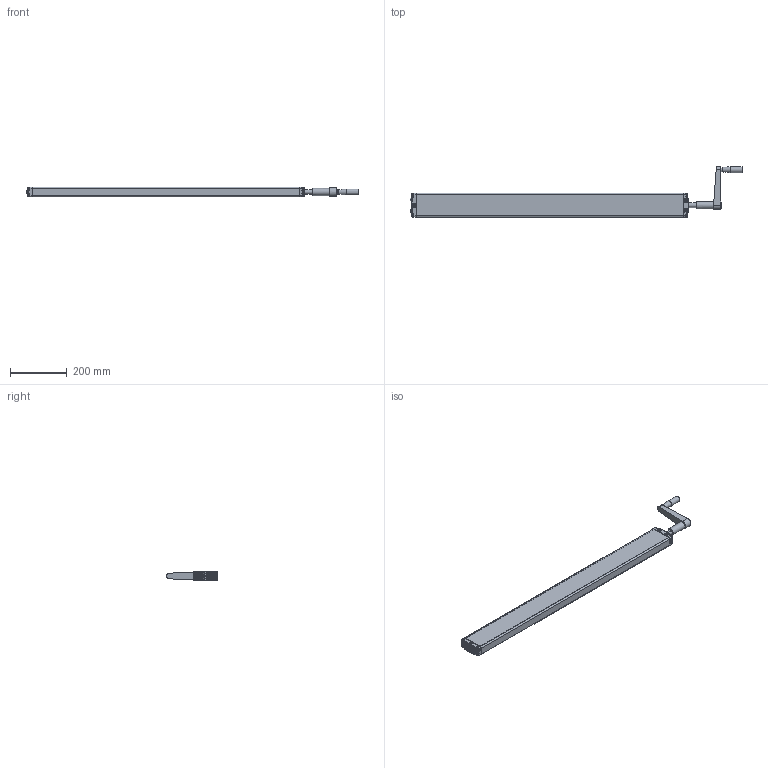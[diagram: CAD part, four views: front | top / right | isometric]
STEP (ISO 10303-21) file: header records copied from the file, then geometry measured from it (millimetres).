
FILE_DESCRIPTION(/* description */ ('Unknown'),/* implementation_level */ '2;1');
FILE_NAME(/* name */ '310.20030 Pumpe PA 2870 W mit Handkurbel',/* time_stamp */ '2016-08-10T15:21:01+02:00',/* author */ ('Unknown'),/* organization */ ('Unknown'),/* preprocessor_version */ 'ST-DEVELOPER v16.7',/* originating_system */ 'DEX',/* authorisation */ $);
FILE_SCHEMA (('AUTOMOTIVE_DESIGN {1 0 10303 214 3 1 1}'));
Products named in the file (20): 100.20007; 115.00039; 125.00045; 115.00008; 142.00021; 125.00021; 113.00005; 128.00001; 125.00052; 126.00013; 125.00053; 127.00014; Handgriff; 142.00013; 125.00149; 122.00040; 126.00002; 119.00028; 126.00001; 142.00057
Assembly tree (27 placements, depth 3):
  100.20007
    115.00039  x2
      125.00045
      115.00008
      142.00021
      125.00021
    113.00005
      128.00001
      125.00052
      126.00013
      125.00053
      127.00014
      Handgriff
    142.00013  x8
    125.00149
    122.00040
    126.00002
    119.00028
    126.00001
    142.00057
Bounding box: 1166.72 x 178 x 35 mm (x, y, z)
Volume: 1014329.9 mm3; surface area: 562434.1 mm2
Topology: 26 solids, 26 shells, 1987 faces, 4571 edges, 2601 vertices
Faces by surface type: plane 606, bspline 480, cylinder 457, cone 294, torus 104, sphere 46
Full cylindrical faces by diameter (mm): 3.5 x2, 4 x2, 4.1 x2, 4.2 x3, 4.917 x2, 5 x8, 6.917 x4, 8 x6, 9.8 x8, 10 x4, 10.4 x1, 12.8 x1, 13 x1, 14 x1, 14.4 x2, 16 x2, 17 x1, 17.3 x2, 17.9 x4, 18 x1, 19 x1, 20.6 x1, 21 x1, 22 x1, 25.5 x1
Entity records: 68415 total; most frequent: CARTESIAN_POINT 39240, ORIENTED_EDGE 6038, DIRECTION 5009, EDGE_CURVE 3019, AXIS2_PLACEMENT_3D 2050, VERTEX_POINT 1852, FACE_BOUND 1587, EDGE_LOOP 1584
